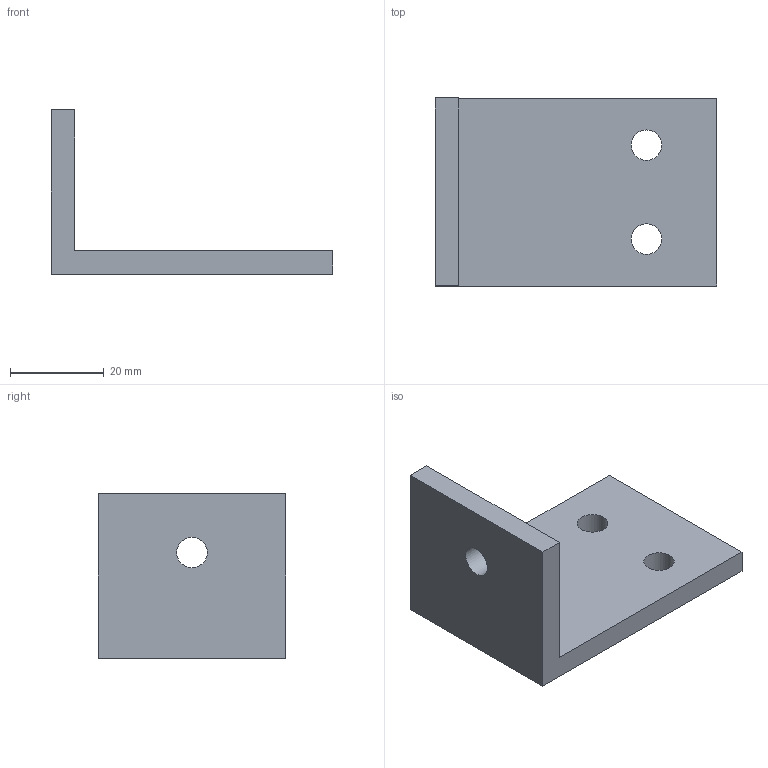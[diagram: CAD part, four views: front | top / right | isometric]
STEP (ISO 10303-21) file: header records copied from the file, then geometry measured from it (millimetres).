
FILE_DESCRIPTION(('Open CASCADE Model'),'2;1');
FILE_NAME('Open CASCADE Shape Model','2026-10-23T13:29:02',('Author'),( 'Open CASCADE'),'Open CASCADE STEP processor 7.8','Open CASCADE 7.8' ,'Unknown');
FILE_SCHEMA(('AUTOMOTIVE_DESIGN { 1 0 10303 214 1 1 1 1 }'));
Length unit declared in the file: millimetre
Products named in the file (1): Open CASCADE STEP translator 7.8 1
Bounding box: 60 x 40 x 35 mm (x, y, z)
Volume: 17502.3 mm3; surface area: 8607.2 mm2
Topology: 1 solids, 1 shells, 11 faces, 27 edges, 18 vertices
Faces by surface type: plane 8, cylinder 3
Full cylindrical faces by diameter (mm): 6.5 x3
Entity records: 700 total; most frequent: CARTESIAN_POINT 111, DIRECTION 111, LINE 69, VECTOR 69, ORIENTED_EDGE 54, PCURVE 54, DEFINITIONAL_REPRESENTATION 54, EDGE_CURVE 27
